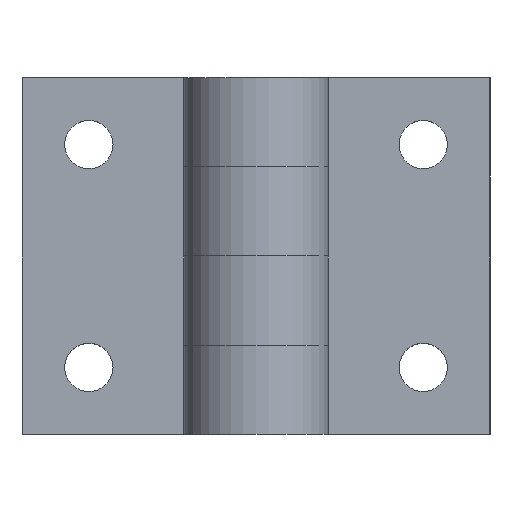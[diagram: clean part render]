
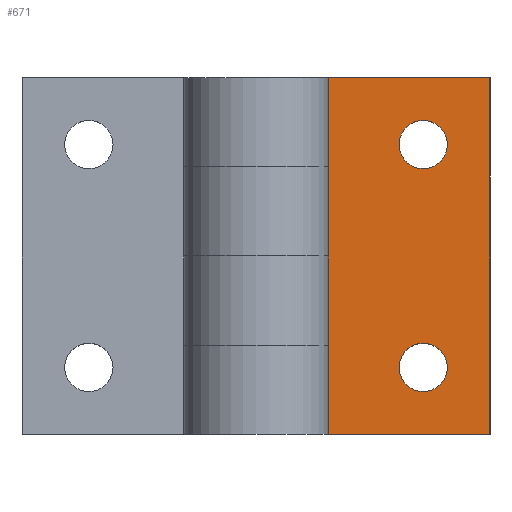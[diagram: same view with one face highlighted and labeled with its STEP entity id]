
A CAD part, top view. The second image highlights one B-rep face of the part: STEP entity #671.
In plain terms, the highlighted planar face has unit normal (0, 0, 1).
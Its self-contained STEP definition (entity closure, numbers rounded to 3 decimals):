
#5 = CARTESIAN_POINT ( 'NONE',  ( 294.85, 84.706, 10. ) ) ;
#21 = CARTESIAN_POINT ( 'NONE',  ( 285.35, 111.706, 10. ) ) ;
#40 = CARTESIAN_POINT ( 'NONE',  ( 285.35, 99.706, 10. ) ) ;
#82 = AXIS2_PLACEMENT_3D ( 'NONE', #102, #556, #185 ) ;
#95 = FACE_BOUND ( 'NONE', #1001, .T. ) ;
#102 = CARTESIAN_POINT ( 'NONE',  ( 298.1, 114.706, 10. ) ) ;
#112 = EDGE_CURVE ( 'NONE', #223, #391, #206, .T. ) ;
#113 = CARTESIAN_POINT ( 'NONE',  ( 294.85, 114.706, 10. ) ) ;
#151 = EDGE_CURVE ( 'NONE', #272, #886, #218, .T. ) ;
#160 = CARTESIAN_POINT ( 'NONE',  ( 307.1, 75.706, 10. ) ) ;
#168 = DIRECTION ( 'NONE',  ( 0., 0., -1. ) ) ;
#185 = DIRECTION ( 'NONE',  ( 1., 0., 0. ) ) ;
#191 = CARTESIAN_POINT ( 'NONE',  ( 301.35, 114.706, 10. ) ) ;
#206 = CIRCLE ( 'NONE', #82, 3.25 ) ;
#210 = ORIENTED_EDGE ( 'NONE', *, *, #963, .F. ) ;
#218 = CIRCLE ( 'NONE', #477, 3.25 ) ;
#223 = VERTEX_POINT ( 'NONE', #191 ) ;
#272 = VERTEX_POINT ( 'NONE', #957 ) ;
#314 = LINE ( 'NONE', #614, #452 ) ;
#316 = FACE_OUTER_BOUND ( 'NONE', #557, .T. ) ;
#317 = ORIENTED_EDGE ( 'NONE', *, *, #723, .F. ) ;
#324 = EDGE_CURVE ( 'NONE', #653, #504, #877, .T. ) ;
#332 = DIRECTION ( 'NONE',  ( 0., 1., 0. ) ) ;
#333 = LINE ( 'NONE', #961, #735 ) ;
#340 = ORIENTED_EDGE ( 'NONE', *, *, #324, .F. ) ;
#349 = CARTESIAN_POINT ( 'NONE',  ( 298.1, 114.706, 10. ) ) ;
#365 = CARTESIAN_POINT ( 'NONE',  ( 285.35, 87.706, 10. ) ) ;
#374 = DIRECTION ( 'NONE',  ( 1., 0., 0. ) ) ;
#383 = ORIENTED_EDGE ( 'NONE', *, *, #112, .T. ) ;
#391 = VERTEX_POINT ( 'NONE', #113 ) ;
#392 = VERTEX_POINT ( 'NONE', #433 ) ;
#394 = VERTEX_POINT ( 'NONE', #435 ) ;
#409 = CIRCLE ( 'NONE', #1051, 3.25 ) ;
#410 = VECTOR ( 'NONE', #505, 1000. ) ;
#416 = ORIENTED_EDGE ( 'NONE', *, *, #151, .T. ) ;
#424 = VECTOR ( 'NONE', #1002, 1000. ) ;
#433 = CARTESIAN_POINT ( 'NONE',  ( 285.35, 123.706, 10. ) ) ;
#434 = CARTESIAN_POINT ( 'NONE',  ( 291.473, 101.017, 10. ) ) ;
#435 = CARTESIAN_POINT ( 'NONE',  ( 307.1, 123.706, 10. ) ) ;
#452 = VECTOR ( 'NONE', #805, 1000. ) ;
#473 = DIRECTION ( 'NONE',  ( 0., 0., -1. ) ) ;
#477 = AXIS2_PLACEMENT_3D ( 'NONE', #740, #744, #838 ) ;
#478 = ORIENTED_EDGE ( 'NONE', *, *, #650, .F. ) ;
#499 = CARTESIAN_POINT ( 'NONE',  ( 307.1, 75.706, 10. ) ) ;
#504 = VERTEX_POINT ( 'NONE', #1035 ) ;
#505 = DIRECTION ( 'NONE',  ( -1., 0., 0. ) ) ;
#520 = PLANE ( 'NONE',  #925 ) ;
#555 = DIRECTION ( 'NONE',  ( 1., 0., 0. ) ) ;
#556 = DIRECTION ( 'NONE',  ( 0., 0., -1. ) ) ;
#557 = EDGE_LOOP ( 'NONE', ( #705, #1055, #478, #317, #971, #210, #340 ) ) ;
#559 = LINE ( 'NONE', #743, #787 ) ;
#587 = LINE ( 'NONE', #648, #706 ) ;
#600 = DIRECTION ( 'NONE',  ( 1., 0., 0. ) ) ;
#603 = LINE ( 'NONE', #739, #928 ) ;
#614 = CARTESIAN_POINT ( 'NONE',  ( 285.35, 99.706, 10. ) ) ;
#648 = CARTESIAN_POINT ( 'NONE',  ( 307.1, 123.706, 10. ) ) ;
#650 = EDGE_CURVE ( 'NONE', #1097, #392, #333, .T. ) ;
#653 = VERTEX_POINT ( 'NONE', #160 ) ;
#669 = DIRECTION ( 'NONE',  ( 0., -1., 0. ) ) ;
#671 = ADVANCED_FACE ( 'NONE', ( #95, #942, #316 ), #520, .T. ) ;
#703 = DIRECTION ( 'NONE',  ( 0., 0., 1. ) ) ;
#705 = ORIENTED_EDGE ( 'NONE', *, *, #1063, .F. ) ;
#706 = VECTOR ( 'NONE', #669, 1000. ) ;
#710 = DIRECTION ( 'NONE',  ( 1., 0., 0. ) ) ;
#716 = EDGE_CURVE ( 'NONE', #391, #223, #409, .T. ) ;
#719 = DIRECTION ( 'NONE',  ( 0., -1., 0. ) ) ;
#723 = EDGE_CURVE ( 'NONE', #1162, #1097, #314, .T. ) ;
#735 = VECTOR ( 'NONE', #332, 1000. ) ;
#739 = CARTESIAN_POINT ( 'NONE',  ( 285.35, 101.017, 10. ) ) ;
#740 = CARTESIAN_POINT ( 'NONE',  ( 298.1, 84.706, 10. ) ) ;
#743 = CARTESIAN_POINT ( 'NONE',  ( 275.6, 123.706, 10. ) ) ;
#744 = DIRECTION ( 'NONE',  ( 0., 0., -1. ) ) ;
#758 = ORIENTED_EDGE ( 'NONE', *, *, #716, .T. ) ;
#773 = CIRCLE ( 'NONE', #1154, 3.25 ) ;
#787 = VECTOR ( 'NONE', #374, 1000. ) ;
#805 = DIRECTION ( 'NONE',  ( 0., 1., 0. ) ) ;
#811 = EDGE_LOOP ( 'NONE', ( #383, #758 ) ) ;
#813 = VERTEX_POINT ( 'NONE', #365 ) ;
#828 = CARTESIAN_POINT ( 'NONE',  ( 285.35, 75.706, 10. ) ) ;
#838 = DIRECTION ( 'NONE',  ( 1., 0., 0. ) ) ;
#877 = LINE ( 'NONE', #499, #410 ) ;
#886 = VERTEX_POINT ( 'NONE', #5 ) ;
#922 = EDGE_CURVE ( 'NONE', #1162, #813, #603, .T. ) ;
#925 = AXIS2_PLACEMENT_3D ( 'NONE', #434, #703, #600 ) ;
#928 = VECTOR ( 'NONE', #719, 1000. ) ;
#942 = FACE_BOUND ( 'NONE', #811, .T. ) ;
#957 = CARTESIAN_POINT ( 'NONE',  ( 301.35, 84.706, 10. ) ) ;
#961 = CARTESIAN_POINT ( 'NONE',  ( 285.35, 123.706, 10. ) ) ;
#963 = EDGE_CURVE ( 'NONE', #504, #813, #1044, .T. ) ;
#971 = ORIENTED_EDGE ( 'NONE', *, *, #922, .T. ) ;
#983 = EDGE_CURVE ( 'NONE', #886, #272, #773, .T. ) ;
#1001 = EDGE_LOOP ( 'NONE', ( #416, #1030 ) ) ;
#1002 = DIRECTION ( 'NONE',  ( 0., 1., 0. ) ) ;
#1006 = CARTESIAN_POINT ( 'NONE',  ( 298.1, 84.706, 10. ) ) ;
#1019 = EDGE_CURVE ( 'NONE', #392, #394, #559, .T. ) ;
#1030 = ORIENTED_EDGE ( 'NONE', *, *, #983, .T. ) ;
#1035 = CARTESIAN_POINT ( 'NONE',  ( 285.35, 75.706, 10. ) ) ;
#1044 = LINE ( 'NONE', #828, #424 ) ;
#1051 = AXIS2_PLACEMENT_3D ( 'NONE', #349, #168, #710 ) ;
#1055 = ORIENTED_EDGE ( 'NONE', *, *, #1019, .F. ) ;
#1063 = EDGE_CURVE ( 'NONE', #394, #653, #587, .T. ) ;
#1097 = VERTEX_POINT ( 'NONE', #21 ) ;
#1154 = AXIS2_PLACEMENT_3D ( 'NONE', #1006, #473, #555 ) ;
#1162 = VERTEX_POINT ( 'NONE', #40 ) ;
